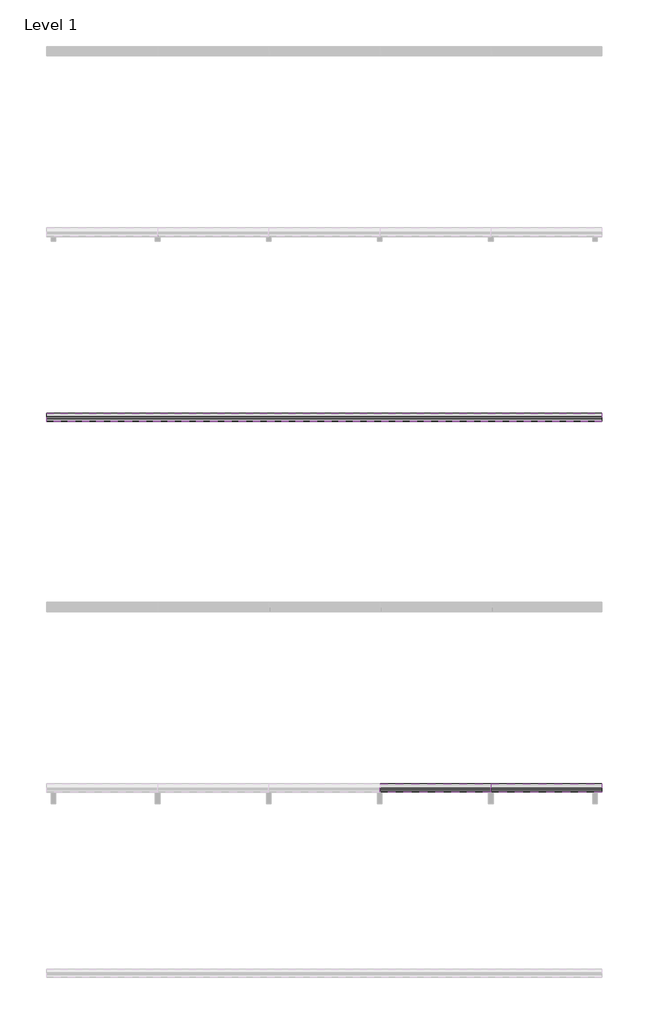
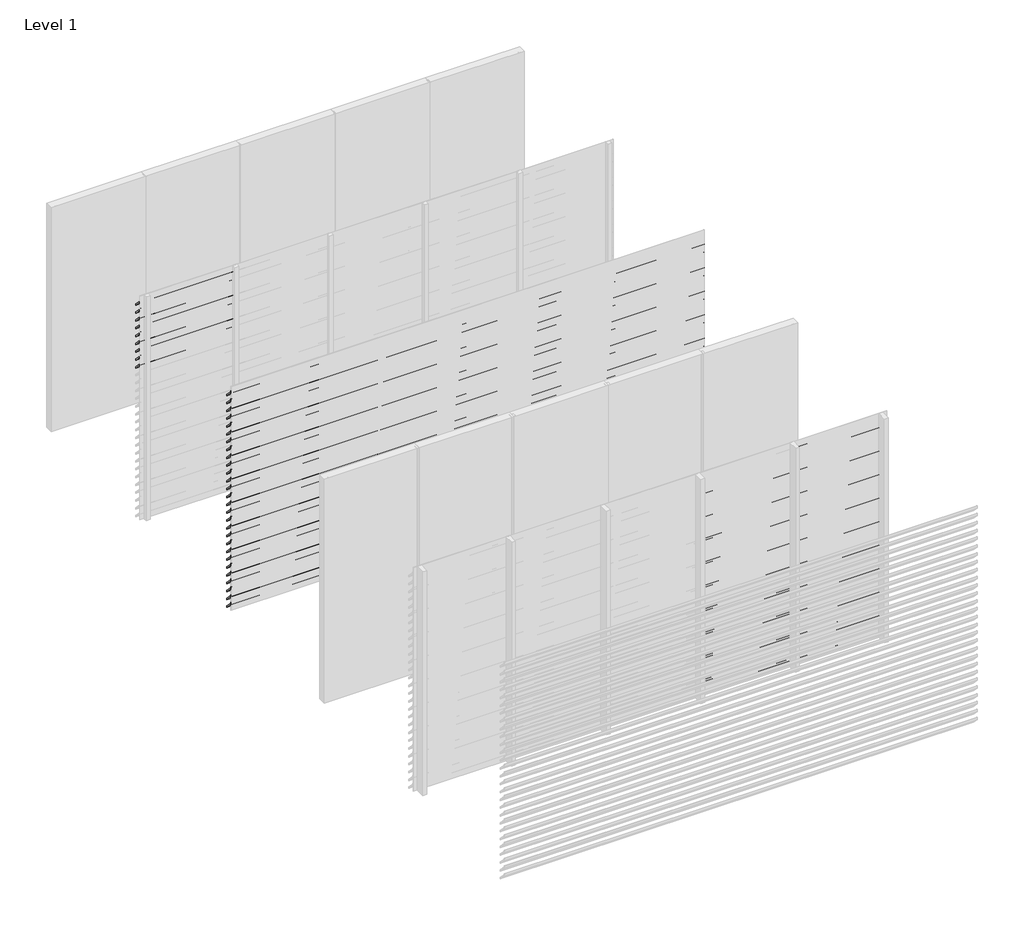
# One storey, part 3 of 8: 91 proxies.
"""IFC4 building model written with IfcOpenShell, lengths in millimetres."""

from ifc_helpers import new_model, si_unit, frame, origin, place, context, project, spatial, polyline, outline, extrude, element, save

model = new_model("IFC4")

# Units and contexts
model_context = context("Model", 3, world=origin())
ifc_project = project(units=[si_unit("LENGTHUNIT", "METRE", prefix="MILLI")], contexts=[model_context])

# Site, building, storey
site = spatial("IfcSite", under=ifc_project)
building = spatial("IfcBuilding", under=site)
storey = spatial("IfcBuildingStorey", under=building, Name="Level 1", Elevation=0.0)

# Proxies
placement = place(None, origin())
element("IfcBuildingElementProxy", 1, Name="Wall Sweeps", at=placement, inside=storey, context=model_context, shape_type="SweptSolid", body=[
    extrude(outline(polyline([(-11995.0, 2940.0), (-11995.0, 2927.0), (-11907.0, 2839.0), (-11907.0, 2818.0), (-11997.0, 2908.0), (-11997.0, 2940.0), (-11995.0, 2940.0)])), frame((0.0, 0.0, 0.0), z_axis=(1.0, 0.0, 0.0), x_axis=(0.0, 1.0, 0.0)), (0.0, 0.0, 1.0), 1200.0),
])
element("IfcBuildingElementProxy", 2, Name="Wall Sweeps", at=placement, inside=storey, context=model_context, shape_type="SweptSolid", body=[
    extrude(outline(polyline([(-11995.0, 2835.0), (-11995.0, 2822.0), (-11907.0, 2734.0), (-11907.0, 2713.0), (-11997.0, 2803.0), (-11997.0, 2835.0), (-11995.0, 2835.0)])), frame((0.0, 0.0, 0.0), z_axis=(1.0, 0.0, 0.0), x_axis=(0.0, 1.0, 0.0)), (0.0, 0.0, 1.0), 1200.0),
])
element("IfcBuildingElementProxy", 3, Name="Wall Sweeps", at=placement, inside=storey, context=model_context, shape_type="SweptSolid", body=[
    extrude(outline(polyline([(-11995.0, 2730.0), (-11995.0, 2717.0), (-11907.0, 2629.0), (-11907.0, 2608.0), (-11997.0, 2698.0), (-11997.0, 2730.0), (-11995.0, 2730.0)])), frame((0.0, 0.0, 0.0), z_axis=(1.0, 0.0, 0.0), x_axis=(0.0, 1.0, 0.0)), (0.0, 0.0, 1.0), 1200.0),
])
element("IfcBuildingElementProxy", 4, Name="Wall Sweeps", at=placement, inside=storey, context=model_context, shape_type="SweptSolid", body=[
    extrude(outline(polyline([(-11995.0, 2625.0), (-11995.0, 2612.0), (-11907.0, 2524.0), (-11907.0, 2503.0), (-11997.0, 2593.0), (-11997.0, 2625.0), (-11995.0, 2625.0)])), frame((0.0, 0.0, 0.0), z_axis=(1.0, 0.0, 0.0), x_axis=(0.0, 1.0, 0.0)), (0.0, 0.0, 1.0), 1200.0),
])
element("IfcBuildingElementProxy", 5, Name="Wall Sweeps", at=placement, inside=storey, context=model_context, shape_type="SweptSolid", body=[
    extrude(outline(polyline([(-11995.0, 2520.0), (-11995.0, 2507.0), (-11907.0, 2419.0), (-11907.0, 2398.0), (-11997.0, 2488.0), (-11997.0, 2520.0), (-11995.0, 2520.0)])), frame((0.0, 0.0, 0.0), z_axis=(1.0, 0.0, 0.0), x_axis=(0.0, 1.0, 0.0)), (0.0, 0.0, 1.0), 1200.0),
])
element("IfcBuildingElementProxy", 6, Name="Wall Sweeps", at=placement, inside=storey, context=model_context, shape_type="SweptSolid", body=[
    extrude(outline(polyline([(-11995.0, 2415.0), (-11995.0, 2402.0), (-11907.0, 2314.0), (-11907.0, 2293.0), (-11997.0, 2383.0), (-11997.0, 2415.0), (-11995.0, 2415.0)])), frame((0.0, 0.0, 0.0), z_axis=(1.0, 0.0, 0.0), x_axis=(0.0, 1.0, 0.0)), (0.0, 0.0, 1.0), 1200.0),
])
element("IfcBuildingElementProxy", 7, Name="Wall Sweeps", at=placement, inside=storey, context=model_context, shape_type="SweptSolid", body=[
    extrude(outline(polyline([(-11995.0, 2310.0), (-11995.0, 2297.0), (-11907.0, 2209.0), (-11907.0, 2188.0), (-11997.0, 2278.0), (-11997.0, 2310.0), (-11995.0, 2310.0)])), frame((0.0, 0.0, 0.0), z_axis=(1.0, 0.0, 0.0), x_axis=(0.0, 1.0, 0.0)), (0.0, 0.0, 1.0), 1200.0),
])
element("IfcBuildingElementProxy", 8, Name="Wall Sweeps", at=placement, inside=storey, context=model_context, shape_type="SweptSolid", body=[
    extrude(outline(polyline([(-11995.0, 2205.0), (-11995.0, 2192.0), (-11907.0, 2104.0), (-11907.0, 2083.0), (-11997.0, 2173.0), (-11997.0, 2205.0), (-11995.0, 2205.0)])), frame((0.0, 0.0, 0.0), z_axis=(1.0, 0.0, 0.0), x_axis=(0.0, 1.0, 0.0)), (0.0, 0.0, 1.0), 1200.0),
])
element("IfcBuildingElementProxy", 9, Name="Wall Sweeps", at=placement, inside=storey, context=model_context, shape_type="SweptSolid", body=[
    extrude(outline(polyline([(-11995.0, 2100.0), (-11995.0, 2087.0), (-11907.0, 1999.0), (-11907.0, 1978.0), (-11997.0, 2068.0), (-11997.0, 2100.0), (-11995.0, 2100.0)])), frame((0.0, 0.0, 0.0), z_axis=(1.0, 0.0, 0.0), x_axis=(0.0, 1.0, 0.0)), (0.0, 0.0, 1.0), 1200.0),
])
element("IfcBuildingElementProxy", 10, Name="Wall Sweeps", at=placement, inside=storey, context=model_context, shape_type="SweptSolid", body=[
    extrude(outline(polyline([(-13995.0, 2940.0), (-13995.0, 2927.0), (-13907.0, 2839.0), (-13907.0, 2818.0), (-13997.0, 2908.0), (-13997.0, 2940.0), (-13995.0, 2940.0)])), frame((0.0, 0.0, 0.0), z_axis=(1.0, 0.0, 0.0), x_axis=(0.0, 1.0, 0.0)), (0.0, 0.0, 1.0), 6000.0),
])
element("IfcBuildingElementProxy", 11, Name="Wall Sweeps", at=placement, inside=storey, context=model_context, shape_type="SweptSolid", body=[
    extrude(outline(polyline([(-13995.0, 2835.0), (-13995.0, 2822.0), (-13907.0, 2734.0), (-13907.0, 2713.0), (-13997.0, 2803.0), (-13997.0, 2835.0), (-13995.0, 2835.0)])), frame((0.0, 0.0, 0.0), z_axis=(1.0, 0.0, 0.0), x_axis=(0.0, 1.0, 0.0)), (0.0, 0.0, 1.0), 6000.0),
])
element("IfcBuildingElementProxy", 12, Name="Wall Sweeps", at=placement, inside=storey, context=model_context, shape_type="SweptSolid", body=[
    extrude(outline(polyline([(-13995.0, 2730.0), (-13995.0, 2717.0), (-13907.0, 2629.0), (-13907.0, 2608.0), (-13997.0, 2698.0), (-13997.0, 2730.0), (-13995.0, 2730.0)])), frame((0.0, 0.0, 0.0), z_axis=(1.0, 0.0, 0.0), x_axis=(0.0, 1.0, 0.0)), (0.0, 0.0, 1.0), 6000.0),
])
element("IfcBuildingElementProxy", 13, Name="Wall Sweeps", at=placement, inside=storey, context=model_context, shape_type="SweptSolid", body=[
    extrude(outline(polyline([(-13995.0, 2625.0), (-13995.0, 2612.0), (-13907.0, 2524.0), (-13907.0, 2503.0), (-13997.0, 2593.0), (-13997.0, 2625.0), (-13995.0, 2625.0)])), frame((0.0, 0.0, 0.0), z_axis=(1.0, 0.0, 0.0), x_axis=(0.0, 1.0, 0.0)), (0.0, 0.0, 1.0), 6000.0),
])
element("IfcBuildingElementProxy", 14, Name="Wall Sweeps", at=placement, inside=storey, context=model_context, shape_type="SweptSolid", body=[
    extrude(outline(polyline([(-13995.0, 2520.0), (-13995.0, 2507.0), (-13907.0, 2419.0), (-13907.0, 2398.0), (-13997.0, 2488.0), (-13997.0, 2520.0), (-13995.0, 2520.0)])), frame((0.0, 0.0, 0.0), z_axis=(1.0, 0.0, 0.0), x_axis=(0.0, 1.0, 0.0)), (0.0, 0.0, 1.0), 6000.0),
])
element("IfcBuildingElementProxy", 15, Name="Wall Sweeps", at=placement, inside=storey, context=model_context, shape_type="SweptSolid", body=[
    extrude(outline(polyline([(-13995.0, 2415.0), (-13995.0, 2402.0), (-13907.0, 2314.0), (-13907.0, 2293.0), (-13997.0, 2383.0), (-13997.0, 2415.0), (-13995.0, 2415.0)])), frame((0.0, 0.0, 0.0), z_axis=(1.0, 0.0, 0.0), x_axis=(0.0, 1.0, 0.0)), (0.0, 0.0, 1.0), 6000.0),
])
element("IfcBuildingElementProxy", 16, Name="Wall Sweeps", at=placement, inside=storey, context=model_context, shape_type="SweptSolid", body=[
    extrude(outline(polyline([(-13995.0, 2310.0), (-13995.0, 2297.0), (-13907.0, 2209.0), (-13907.0, 2188.0), (-13997.0, 2278.0), (-13997.0, 2310.0), (-13995.0, 2310.0)])), frame((0.0, 0.0, 0.0), z_axis=(1.0, 0.0, 0.0), x_axis=(0.0, 1.0, 0.0)), (0.0, 0.0, 1.0), 6000.0),
])
element("IfcBuildingElementProxy", 17, Name="Wall Sweeps", at=placement, inside=storey, context=model_context, shape_type="SweptSolid", body=[
    extrude(outline(polyline([(-13995.0, 2205.0), (-13995.0, 2192.0), (-13907.0, 2104.0), (-13907.0, 2083.0), (-13997.0, 2173.0), (-13997.0, 2205.0), (-13995.0, 2205.0)])), frame((0.0, 0.0, 0.0), z_axis=(1.0, 0.0, 0.0), x_axis=(0.0, 1.0, 0.0)), (0.0, 0.0, 1.0), 6000.0),
])
element("IfcBuildingElementProxy", 18, Name="Wall Sweeps", at=placement, inside=storey, context=model_context, shape_type="SweptSolid", body=[
    extrude(outline(polyline([(-13995.0, 2100.0), (-13995.0, 2087.0), (-13907.0, 1999.0), (-13907.0, 1978.0), (-13997.0, 2068.0), (-13997.0, 2100.0), (-13995.0, 2100.0)])), frame((0.0, 0.0, 0.0), z_axis=(1.0, 0.0, 0.0), x_axis=(0.0, 1.0, 0.0)), (0.0, 0.0, 1.0), 6000.0),
])
element("IfcBuildingElementProxy", 19, Name="Wall Sweeps", at=placement, inside=storey, context=model_context, shape_type="SweptSolid", body=[
    extrude(outline(polyline([(-13995.0, 1995.0), (-13995.0, 1982.0), (-13907.0, 1894.0), (-13907.0, 1873.0), (-13997.0, 1963.0), (-13997.0, 1995.0), (-13995.0, 1995.0)])), frame((0.0, 0.0, 0.0), z_axis=(1.0, 0.0, 0.0), x_axis=(0.0, 1.0, 0.0)), (0.0, 0.0, 1.0), 6000.0),
])
element("IfcBuildingElementProxy", 20, Name="Wall Sweeps", at=placement, inside=storey, context=model_context, shape_type="SweptSolid", body=[
    extrude(outline(polyline([(-13995.0, 1890.0), (-13995.0, 1877.0), (-13907.0, 1789.0), (-13907.0, 1768.0), (-13997.0, 1858.0), (-13997.0, 1890.0), (-13995.0, 1890.0)])), frame((0.0, 0.0, 0.0), z_axis=(1.0, 0.0, 0.0), x_axis=(0.0, 1.0, 0.0)), (0.0, 0.0, 1.0), 6000.0),
])
element("IfcBuildingElementProxy", 21, Name="Wall Sweeps", at=placement, inside=storey, context=model_context, shape_type="SweptSolid", body=[
    extrude(outline(polyline([(-13995.0, 1785.0), (-13995.0, 1772.0), (-13907.0, 1684.0), (-13907.0, 1663.0), (-13997.0, 1753.0), (-13997.0, 1785.0), (-13995.0, 1785.0)])), frame((0.0, 0.0, 0.0), z_axis=(1.0, 0.0, 0.0), x_axis=(0.0, 1.0, 0.0)), (0.0, 0.0, 1.0), 6000.0),
])
element("IfcBuildingElementProxy", 22, Name="Wall Sweeps", at=placement, inside=storey, context=model_context, shape_type="SweptSolid", body=[
    extrude(outline(polyline([(-13995.0, 1680.0), (-13995.0, 1667.0), (-13907.0, 1579.0), (-13907.0, 1558.0), (-13997.0, 1648.0), (-13997.0, 1680.0), (-13995.0, 1680.0)])), frame((0.0, 0.0, 0.0), z_axis=(1.0, 0.0, 0.0), x_axis=(0.0, 1.0, 0.0)), (0.0, 0.0, 1.0), 6000.0),
])
element("IfcBuildingElementProxy", 23, Name="Wall Sweeps", at=placement, inside=storey, context=model_context, shape_type="SweptSolid", body=[
    extrude(outline(polyline([(-13995.0, 1575.0), (-13995.0, 1562.0), (-13907.0, 1474.0), (-13907.0, 1453.0), (-13997.0, 1543.0), (-13997.0, 1575.0), (-13995.0, 1575.0)])), frame((0.0, 0.0, 0.0), z_axis=(1.0, 0.0, 0.0), x_axis=(0.0, 1.0, 0.0)), (0.0, 0.0, 1.0), 6000.0),
])
element("IfcBuildingElementProxy", 24, Name="Wall Sweeps", at=placement, inside=storey, context=model_context, shape_type="SweptSolid", body=[
    extrude(outline(polyline([(-13995.0, 1470.0), (-13995.0, 1457.0), (-13907.0, 1369.0), (-13907.0, 1348.0), (-13997.0, 1438.0), (-13997.0, 1470.0), (-13995.0, 1470.0)])), frame((0.0, 0.0, 0.0), z_axis=(1.0, 0.0, 0.0), x_axis=(0.0, 1.0, 0.0)), (0.0, 0.0, 1.0), 6000.0),
])
element("IfcBuildingElementProxy", 25, Name="Wall Sweeps", at=placement, inside=storey, context=model_context, shape_type="SweptSolid", body=[
    extrude(outline(polyline([(-13995.0, 1365.0), (-13995.0, 1352.0), (-13907.0, 1264.0), (-13907.0, 1243.0), (-13997.0, 1333.0), (-13997.0, 1365.0), (-13995.0, 1365.0)])), frame((0.0, 0.0, 0.0), z_axis=(1.0, 0.0, 0.0), x_axis=(0.0, 1.0, 0.0)), (0.0, 0.0, 1.0), 6000.0),
])
element("IfcBuildingElementProxy", 26, Name="Wall Sweeps", at=placement, inside=storey, context=model_context, shape_type="SweptSolid", body=[
    extrude(outline(polyline([(-13995.0, 1260.0), (-13995.0, 1247.0), (-13907.0, 1159.0), (-13907.0, 1138.0), (-13997.0, 1228.0), (-13997.0, 1260.0), (-13995.0, 1260.0)])), frame((0.0, 0.0, 0.0), z_axis=(1.0, 0.0, 0.0), x_axis=(0.0, 1.0, 0.0)), (0.0, 0.0, 1.0), 6000.0),
])
element("IfcBuildingElementProxy", 27, Name="Wall Sweeps", at=placement, inside=storey, context=model_context, shape_type="SweptSolid", body=[
    extrude(outline(polyline([(-13995.0, 1155.0), (-13995.0, 1142.0), (-13907.0, 1054.0), (-13907.0, 1033.0), (-13997.0, 1123.0), (-13997.0, 1155.0), (-13995.0, 1155.0)])), frame((0.0, 0.0, 0.0), z_axis=(1.0, 0.0, 0.0), x_axis=(0.0, 1.0, 0.0)), (0.0, 0.0, 1.0), 6000.0),
])
element("IfcBuildingElementProxy", 28, Name="Wall Sweeps", at=placement, inside=storey, context=model_context, shape_type="SweptSolid", body=[
    extrude(outline(polyline([(-13995.0, 1050.0), (-13995.0, 1037.0), (-13907.0, 949.0), (-13907.0, 928.0), (-13997.0, 1018.0), (-13997.0, 1050.0), (-13995.0, 1050.0)])), frame((0.0, 0.0, 0.0), z_axis=(1.0, 0.0, 0.0), x_axis=(0.0, 1.0, 0.0)), (0.0, 0.0, 1.0), 6000.0),
])
element("IfcBuildingElementProxy", 29, Name="Wall Sweeps", at=placement, inside=storey, context=model_context, shape_type="SweptSolid", body=[
    extrude(outline(polyline([(-13995.0, 945.0), (-13995.0, 932.0), (-13907.0, 844.0), (-13907.0, 823.0), (-13997.0, 913.0), (-13997.0, 945.0), (-13995.0, 945.0)])), frame((0.0, 0.0, 0.0), z_axis=(1.0, 0.0, 0.0), x_axis=(0.0, 1.0, 0.0)), (0.0, 0.0, 1.0), 6000.0),
])
element("IfcBuildingElementProxy", 30, Name="Wall Sweeps", at=placement, inside=storey, context=model_context, shape_type="SweptSolid", body=[
    extrude(outline(polyline([(-13995.0, 840.0), (-13995.0, 827.0), (-13907.0, 739.0), (-13907.0, 718.0), (-13997.0, 808.0), (-13997.0, 840.0), (-13995.0, 840.0)])), frame((0.0, 0.0, 0.0), z_axis=(1.0, 0.0, 0.0), x_axis=(0.0, 1.0, 0.0)), (0.0, 0.0, 1.0), 6000.0),
])
element("IfcBuildingElementProxy", 31, Name="Wall Sweeps", at=placement, inside=storey, context=model_context, shape_type="SweptSolid", body=[
    extrude(outline(polyline([(-13995.0, 735.0), (-13995.0, 722.0), (-13907.0, 634.0), (-13907.0, 613.0), (-13997.0, 703.0), (-13997.0, 735.0), (-13995.0, 735.0)])), frame((0.0, 0.0, 0.0), z_axis=(1.0, 0.0, 0.0), x_axis=(0.0, 1.0, 0.0)), (0.0, 0.0, 1.0), 6000.0),
])
element("IfcBuildingElementProxy", 32, Name="Wall Sweeps", at=placement, inside=storey, context=model_context, shape_type="SweptSolid", body=[
    extrude(outline(polyline([(-13995.0, 630.0), (-13995.0, 617.0), (-13907.0, 529.0), (-13907.0, 508.0), (-13997.0, 598.0), (-13997.0, 630.0), (-13995.0, 630.0)])), frame((0.0, 0.0, 0.0), z_axis=(1.0, 0.0, 0.0), x_axis=(0.0, 1.0, 0.0)), (0.0, 0.0, 1.0), 6000.0),
])
element("IfcBuildingElementProxy", 33, Name="Wall Sweeps", at=placement, inside=storey, context=model_context, shape_type="SweptSolid", body=[
    extrude(outline(polyline([(-13995.0, 525.0), (-13995.0, 512.0), (-13907.0, 424.0), (-13907.0, 403.0), (-13997.0, 493.0), (-13997.0, 525.0), (-13995.0, 525.0)])), frame((0.0, 0.0, 0.0), z_axis=(1.0, 0.0, 0.0), x_axis=(0.0, 1.0, 0.0)), (0.0, 0.0, 1.0), 6000.0),
])
element("IfcBuildingElementProxy", 34, Name="Wall Sweeps", at=placement, inside=storey, context=model_context, shape_type="SweptSolid", body=[
    extrude(outline(polyline([(-13995.0, 420.0), (-13995.0, 407.0), (-13907.0, 319.0), (-13907.0, 298.0), (-13997.0, 388.0), (-13997.0, 420.0), (-13995.0, 420.0)])), frame((0.0, 0.0, 0.0), z_axis=(1.0, 0.0, 0.0), x_axis=(0.0, 1.0, 0.0)), (0.0, 0.0, 1.0), 6000.0),
])
element("IfcBuildingElementProxy", 35, Name="Wall Sweeps", at=placement, inside=storey, context=model_context, shape_type="SweptSolid", body=[
    extrude(outline(polyline([(-13995.0, 315.0), (-13995.0, 302.0), (-13907.0, 214.0), (-13907.0, 193.0), (-13997.0, 283.0), (-13997.0, 315.0), (-13995.0, 315.0)])), frame((0.0, 0.0, 0.0), z_axis=(1.0, 0.0, 0.0), x_axis=(0.0, 1.0, 0.0)), (0.0, 0.0, 1.0), 6000.0),
])
element("IfcBuildingElementProxy", 36, Name="Wall Sweeps", at=placement, inside=storey, context=model_context, shape_type="SweptSolid", body=[
    extrude(outline(polyline([(-13995.0, 210.0), (-13995.0, 197.0), (-13907.0, 109.0), (-13907.0, 88.0), (-13997.0, 178.0), (-13997.0, 210.0), (-13995.0, 210.0)])), frame((0.0, 0.0, 0.0), z_axis=(1.0, 0.0, 0.0), x_axis=(0.0, 1.0, 0.0)), (0.0, 0.0, 1.0), 6000.0),
])
element("IfcBuildingElementProxy", 37, Name="Wall Sweeps", at=placement, inside=storey, context=model_context, shape_type="SweptSolid", body=[
    extrude(outline(polyline([(-13995.0, 105.0), (-13995.0, 92.0), (-13907.0, 4.0), (-13907.0, -17.0), (-13997.0, 73.0), (-13997.0, 105.0), (-13995.0, 105.0)])), frame((0.0, 0.0, 0.0), z_axis=(1.0, 0.0, 0.0), x_axis=(0.0, 1.0, 0.0)), (0.0, 0.0, 1.0), 6000.0),
])
element("IfcBuildingElementProxy", 38, Name="Wall Sweeps", at=placement, inside=storey, context=model_context, shape_type="SweptSolid", body=[
    extrude(outline(polyline([(-17995.0, 2940.0), (-17995.0, 2927.0), (-17907.0, 2839.0), (-17907.0, 2818.0), (-17997.0, 2908.0), (-17997.0, 2940.0), (-17995.0, 2940.0)])), frame((4799.9999998, 0.0, 0.0), z_axis=(1.0, 0.0, 0.0), x_axis=(0.0, 1.0, 0.0)), (0.0, 0.0, 1.0), 1200.0000002),
])
element("IfcBuildingElementProxy", 39, Name="Wall Sweeps", at=placement, inside=storey, context=model_context, shape_type="SweptSolid", body=[
    extrude(outline(polyline([(-17995.0, 2835.0), (-17995.0, 2822.0), (-17907.0, 2734.0), (-17907.0, 2713.0), (-17997.0, 2803.0), (-17997.0, 2835.0), (-17995.0, 2835.0)])), frame((4799.9999998, 0.0, 0.0), z_axis=(1.0, 0.0, 0.0), x_axis=(0.0, 1.0, 0.0)), (0.0, 0.0, 1.0), 1200.0000002),
])
element("IfcBuildingElementProxy", 40, Name="Wall Sweeps", at=placement, inside=storey, context=model_context, shape_type="SweptSolid", body=[
    extrude(outline(polyline([(-17995.0, 2730.0), (-17995.0, 2717.0), (-17907.0, 2629.0), (-17907.0, 2608.0), (-17997.0, 2698.0), (-17997.0, 2730.0), (-17995.0, 2730.0)])), frame((4799.9999998, 0.0, 0.0), z_axis=(1.0, 0.0, 0.0), x_axis=(0.0, 1.0, 0.0)), (0.0, 0.0, 1.0), 1200.0000002),
])
element("IfcBuildingElementProxy", 41, Name="Wall Sweeps", at=placement, inside=storey, context=model_context, shape_type="SweptSolid", body=[
    extrude(outline(polyline([(-17995.0, 2625.0), (-17995.0, 2612.0), (-17907.0, 2524.0), (-17907.0, 2503.0), (-17997.0, 2593.0), (-17997.0, 2625.0), (-17995.0, 2625.0)])), frame((4799.9999998, 0.0, 0.0), z_axis=(1.0, 0.0, 0.0), x_axis=(0.0, 1.0, 0.0)), (0.0, 0.0, 1.0), 1200.0000002),
])
element("IfcBuildingElementProxy", 42, Name="Wall Sweeps", at=placement, inside=storey, context=model_context, shape_type="SweptSolid", body=[
    extrude(outline(polyline([(-17995.0, 2520.0), (-17995.0, 2507.0), (-17907.0, 2419.0), (-17907.0, 2398.0), (-17997.0, 2488.0), (-17997.0, 2520.0), (-17995.0, 2520.0)])), frame((4799.9999998, 0.0, 0.0), z_axis=(1.0, 0.0, 0.0), x_axis=(0.0, 1.0, 0.0)), (0.0, 0.0, 1.0), 1200.0000002),
])
element("IfcBuildingElementProxy", 43, Name="Wall Sweeps", at=placement, inside=storey, context=model_context, shape_type="SweptSolid", body=[
    extrude(outline(polyline([(-17995.0, 2415.0), (-17995.0, 2402.0), (-17907.0, 2314.0), (-17907.0, 2293.0), (-17997.0, 2383.0), (-17997.0, 2415.0), (-17995.0, 2415.0)])), frame((4799.9999998, 0.0, 0.0), z_axis=(1.0, 0.0, 0.0), x_axis=(0.0, 1.0, 0.0)), (0.0, 0.0, 1.0), 1200.0000002),
])
element("IfcBuildingElementProxy", 44, Name="Wall Sweeps", at=placement, inside=storey, context=model_context, shape_type="SweptSolid", body=[
    extrude(outline(polyline([(-17995.0, 2310.0), (-17995.0, 2297.0), (-17907.0, 2209.0), (-17907.0, 2188.0), (-17997.0, 2278.0), (-17997.0, 2310.0), (-17995.0, 2310.0)])), frame((4799.9999998, 0.0, 0.0), z_axis=(1.0, 0.0, 0.0), x_axis=(0.0, 1.0, 0.0)), (0.0, 0.0, 1.0), 1200.0000002),
])
element("IfcBuildingElementProxy", 45, Name="Wall Sweeps", at=placement, inside=storey, context=model_context, shape_type="SweptSolid", body=[
    extrude(outline(polyline([(-17995.0, 2205.0), (-17995.0, 2192.0), (-17907.0, 2104.0), (-17907.0, 2083.0), (-17997.0, 2173.0), (-17997.0, 2205.0), (-17995.0, 2205.0)])), frame((4799.9999998, 0.0, 0.0), z_axis=(1.0, 0.0, 0.0), x_axis=(0.0, 1.0, 0.0)), (0.0, 0.0, 1.0), 1200.0000002),
])
element("IfcBuildingElementProxy", 46, Name="Wall Sweeps", at=placement, inside=storey, context=model_context, shape_type="SweptSolid", body=[
    extrude(outline(polyline([(-17995.0, 2100.0), (-17995.0, 2087.0), (-17907.0, 1999.0), (-17907.0, 1978.0), (-17997.0, 2068.0), (-17997.0, 2100.0), (-17995.0, 2100.0)])), frame((4799.9999998, 0.0, 0.0), z_axis=(1.0, 0.0, 0.0), x_axis=(0.0, 1.0, 0.0)), (0.0, 0.0, 1.0), 1200.0000002),
])
element("IfcBuildingElementProxy", 47, Name="Wall Sweeps", at=placement, inside=storey, context=model_context, shape_type="SweptSolid", body=[
    extrude(outline(polyline([(-17995.0, 1995.0), (-17995.0, 1982.0), (-17907.0, 1894.0), (-17907.0, 1873.0), (-17997.0, 1963.0), (-17997.0, 1995.0), (-17995.0, 1995.0)])), frame((4799.9999998, 0.0, 0.0), z_axis=(1.0, 0.0, 0.0), x_axis=(0.0, 1.0, 0.0)), (0.0, 0.0, 1.0), 1200.0000002),
])
element("IfcBuildingElementProxy", 48, Name="Wall Sweeps", at=placement, inside=storey, context=model_context, shape_type="SweptSolid", body=[
    extrude(outline(polyline([(-17995.0, 1890.0), (-17995.0, 1877.0), (-17907.0, 1789.0), (-17907.0, 1768.0), (-17997.0, 1858.0), (-17997.0, 1890.0), (-17995.0, 1890.0)])), frame((4799.9999998, 0.0, 0.0), z_axis=(1.0, 0.0, 0.0), x_axis=(0.0, 1.0, 0.0)), (0.0, 0.0, 1.0), 1200.0000002),
])
element("IfcBuildingElementProxy", 49, Name="Wall Sweeps", at=placement, inside=storey, context=model_context, shape_type="SweptSolid", body=[
    extrude(outline(polyline([(-17995.0, 1785.0), (-17995.0, 1772.0), (-17907.0, 1684.0), (-17907.0, 1663.0), (-17997.0, 1753.0), (-17997.0, 1785.0), (-17995.0, 1785.0)])), frame((4799.9999998, 0.0, 0.0), z_axis=(1.0, 0.0, 0.0), x_axis=(0.0, 1.0, 0.0)), (0.0, 0.0, 1.0), 1200.0000002),
])
element("IfcBuildingElementProxy", 50, Name="Wall Sweeps", at=placement, inside=storey, context=model_context, shape_type="SweptSolid", body=[
    extrude(outline(polyline([(-17995.0, 1680.0), (-17995.0, 1667.0), (-17907.0, 1579.0), (-17907.0, 1558.0), (-17997.0, 1648.0), (-17997.0, 1680.0), (-17995.0, 1680.0)])), frame((4799.9999998, 0.0, 0.0), z_axis=(1.0, 0.0, 0.0), x_axis=(0.0, 1.0, 0.0)), (0.0, 0.0, 1.0), 1200.0000002),
])
element("IfcBuildingElementProxy", 51, Name="Wall Sweeps", at=placement, inside=storey, context=model_context, shape_type="SweptSolid", body=[
    extrude(outline(polyline([(-17995.0, 1575.0), (-17995.0, 1562.0), (-17907.0, 1474.0), (-17907.0, 1453.0), (-17997.0, 1543.0), (-17997.0, 1575.0), (-17995.0, 1575.0)])), frame((4799.9999998, 0.0, 0.0), z_axis=(1.0, 0.0, 0.0), x_axis=(0.0, 1.0, 0.0)), (0.0, 0.0, 1.0), 1200.0000002),
])
element("IfcBuildingElementProxy", 52, Name="Wall Sweeps", at=placement, inside=storey, context=model_context, shape_type="SweptSolid", body=[
    extrude(outline(polyline([(-17995.0, 1470.0), (-17995.0, 1457.0), (-17907.0, 1369.0), (-17907.0, 1348.0), (-17997.0, 1438.0), (-17997.0, 1470.0), (-17995.0, 1470.0)])), frame((4799.9999998, 0.0, 0.0), z_axis=(1.0, 0.0, 0.0), x_axis=(0.0, 1.0, 0.0)), (0.0, 0.0, 1.0), 1200.0000002),
])
element("IfcBuildingElementProxy", 53, Name="Wall Sweeps", at=placement, inside=storey, context=model_context, shape_type="SweptSolid", body=[
    extrude(outline(polyline([(-17995.0, 1365.0), (-17995.0, 1352.0), (-17907.0, 1264.0), (-17907.0, 1243.0), (-17997.0, 1333.0), (-17997.0, 1365.0), (-17995.0, 1365.0)])), frame((4799.9999998, 0.0, 0.0), z_axis=(1.0, 0.0, 0.0), x_axis=(0.0, 1.0, 0.0)), (0.0, 0.0, 1.0), 1200.0000002),
])
element("IfcBuildingElementProxy", 54, Name="Wall Sweeps", at=placement, inside=storey, context=model_context, shape_type="SweptSolid", body=[
    extrude(outline(polyline([(-17995.0, 1260.0), (-17995.0, 1247.0), (-17907.0, 1159.0), (-17907.0, 1138.0), (-17997.0, 1228.0), (-17997.0, 1260.0), (-17995.0, 1260.0)])), frame((4799.9999998, 0.0, 0.0), z_axis=(1.0, 0.0, 0.0), x_axis=(0.0, 1.0, 0.0)), (0.0, 0.0, 1.0), 1200.0000002),
])
element("IfcBuildingElementProxy", 55, Name="Wall Sweeps", at=placement, inside=storey, context=model_context, shape_type="SweptSolid", body=[
    extrude(outline(polyline([(-17995.0, 1155.0), (-17995.0, 1142.0), (-17907.0, 1054.0), (-17907.0, 1033.0), (-17997.0, 1123.0), (-17997.0, 1155.0), (-17995.0, 1155.0)])), frame((4799.9999998, 0.0, 0.0), z_axis=(1.0, 0.0, 0.0), x_axis=(0.0, 1.0, 0.0)), (0.0, 0.0, 1.0), 1200.0000002),
])
element("IfcBuildingElementProxy", 56, Name="Wall Sweeps", at=placement, inside=storey, context=model_context, shape_type="SweptSolid", body=[
    extrude(outline(polyline([(-17995.0, 1050.0), (-17995.0, 1037.0), (-17907.0, 949.0), (-17907.0, 928.0), (-17997.0, 1018.0), (-17997.0, 1050.0), (-17995.0, 1050.0)])), frame((4799.9999998, 0.0, 0.0), z_axis=(1.0, 0.0, 0.0), x_axis=(0.0, 1.0, 0.0)), (0.0, 0.0, 1.0), 1200.0000002),
])
element("IfcBuildingElementProxy", 57, Name="Wall Sweeps", at=placement, inside=storey, context=model_context, shape_type="SweptSolid", body=[
    extrude(outline(polyline([(-17995.0, 945.0), (-17995.0, 932.0), (-17907.0, 844.0), (-17907.0, 823.0), (-17997.0, 913.0), (-17997.0, 945.0), (-17995.0, 945.0)])), frame((4799.9999998, 0.0, 0.0), z_axis=(1.0, 0.0, 0.0), x_axis=(0.0, 1.0, 0.0)), (0.0, 0.0, 1.0), 1200.0000002),
])
element("IfcBuildingElementProxy", 58, Name="Wall Sweeps", at=placement, inside=storey, context=model_context, shape_type="SweptSolid", body=[
    extrude(outline(polyline([(-17995.0, 840.0), (-17995.0, 827.0), (-17907.0, 739.0), (-17907.0, 718.0), (-17997.0, 808.0), (-17997.0, 840.0), (-17995.0, 840.0)])), frame((4799.9999998, 0.0, 0.0), z_axis=(1.0, 0.0, 0.0), x_axis=(0.0, 1.0, 0.0)), (0.0, 0.0, 1.0), 1200.0000002),
])
element("IfcBuildingElementProxy", 59, Name="Wall Sweeps", at=placement, inside=storey, context=model_context, shape_type="SweptSolid", body=[
    extrude(outline(polyline([(-17995.0, 735.0), (-17995.0, 722.0), (-17907.0, 634.0), (-17907.0, 613.0), (-17997.0, 703.0), (-17997.0, 735.0), (-17995.0, 735.0)])), frame((4799.9999998, 0.0, 0.0), z_axis=(1.0, 0.0, 0.0), x_axis=(0.0, 1.0, 0.0)), (0.0, 0.0, 1.0), 1200.0000002),
])
element("IfcBuildingElementProxy", 60, Name="Wall Sweeps", at=placement, inside=storey, context=model_context, shape_type="SweptSolid", body=[
    extrude(outline(polyline([(-17995.0, 630.0), (-17995.0, 617.0), (-17907.0, 529.0), (-17907.0, 508.0), (-17997.0, 598.0), (-17997.0, 630.0), (-17995.0, 630.0)])), frame((4799.9999998, 0.0, 0.0), z_axis=(1.0, 0.0, 0.0), x_axis=(0.0, 1.0, 0.0)), (0.0, 0.0, 1.0), 1200.0000002),
])
element("IfcBuildingElementProxy", 61, Name="Wall Sweeps", at=placement, inside=storey, context=model_context, shape_type="SweptSolid", body=[
    extrude(outline(polyline([(-17995.0, 525.0), (-17995.0, 512.0), (-17907.0, 424.0), (-17907.0, 403.0), (-17997.0, 493.0), (-17997.0, 525.0), (-17995.0, 525.0)])), frame((4799.9999998, 0.0, 0.0), z_axis=(1.0, 0.0, 0.0), x_axis=(0.0, 1.0, 0.0)), (0.0, 0.0, 1.0), 1200.0000002),
])
element("IfcBuildingElementProxy", 62, Name="Wall Sweeps", at=placement, inside=storey, context=model_context, shape_type="SweptSolid", body=[
    extrude(outline(polyline([(-17995.0, 420.0), (-17995.0, 407.0), (-17907.0, 319.0), (-17907.0, 298.0), (-17997.0, 388.0), (-17997.0, 420.0), (-17995.0, 420.0)])), frame((4799.9999998, 0.0, 0.0), z_axis=(1.0, 0.0, 0.0), x_axis=(0.0, 1.0, 0.0)), (0.0, 0.0, 1.0), 1200.0000002),
])
element("IfcBuildingElementProxy", 63, Name="Wall Sweeps", at=placement, inside=storey, context=model_context, shape_type="SweptSolid", body=[
    extrude(outline(polyline([(-17995.0, 315.0), (-17995.0, 302.0), (-17907.0, 214.0), (-17907.0, 193.0), (-17997.0, 283.0), (-17997.0, 315.0), (-17995.0, 315.0)])), frame((4799.9999998, 0.0, 0.0), z_axis=(1.0, 0.0, 0.0), x_axis=(0.0, 1.0, 0.0)), (0.0, 0.0, 1.0), 1200.0000002),
])
element("IfcBuildingElementProxy", 64, Name="Wall Sweeps", at=placement, inside=storey, context=model_context, shape_type="SweptSolid", body=[
    extrude(outline(polyline([(-17995.0, 210.0), (-17995.0, 197.0), (-17907.0, 109.0), (-17907.0, 88.0), (-17997.0, 178.0), (-17997.0, 210.0), (-17995.0, 210.0)])), frame((4799.9999998, 0.0, 0.0), z_axis=(1.0, 0.0, 0.0), x_axis=(0.0, 1.0, 0.0)), (0.0, 0.0, 1.0), 1200.0000002),
])
element("IfcBuildingElementProxy", 65, Name="Wall Sweeps", at=placement, inside=storey, context=model_context, shape_type="SweptSolid", body=[
    extrude(outline(polyline([(-17995.0, 105.0), (-17995.0, 92.0), (-17907.0, 4.0), (-17907.0, -17.0), (-17997.0, 73.0), (-17997.0, 105.0), (-17995.0, 105.0)])), frame((4799.9999998, 0.0, 0.0), z_axis=(1.0, 0.0, 0.0), x_axis=(0.0, 1.0, 0.0)), (0.0, 0.0, 1.0), 1200.0000002),
])
element("IfcBuildingElementProxy", 66, Name="Wall Sweeps", at=placement, inside=storey, context=model_context, shape_type="SweptSolid", body=[
    extrude(outline(polyline([(-17995.0, 2730.0), (-17995.0, 2717.0), (-17907.0, 2629.0), (-17907.0, 2608.0), (-17997.0, 2698.0), (-17997.0, 2730.0), (-17995.0, 2730.0)])), frame((3599.9999999, 0.0, 0.0), z_axis=(1.0, 0.0, 0.0), x_axis=(0.0, 1.0, 0.0)), (0.0, 0.0, 1.0), 1199.9999999),
])
element("IfcBuildingElementProxy", 67, Name="Wall Sweeps", at=placement, inside=storey, context=model_context, shape_type="SweptSolid", body=[
    extrude(outline(polyline([(-17995.0, 2625.0), (-17995.0, 2612.0), (-17907.0, 2524.0), (-17907.0, 2503.0), (-17997.0, 2593.0), (-17997.0, 2625.0), (-17995.0, 2625.0)])), frame((3599.9999999, 0.0, 0.0), z_axis=(1.0, 0.0, 0.0), x_axis=(0.0, 1.0, 0.0)), (0.0, 0.0, 1.0), 1199.9999999),
])
element("IfcBuildingElementProxy", 68, Name="Wall Sweeps", at=placement, inside=storey, context=model_context, shape_type="SweptSolid", body=[
    extrude(outline(polyline([(-17995.0, 2520.0), (-17995.0, 2507.0), (-17907.0, 2419.0), (-17907.0, 2398.0), (-17997.0, 2488.0), (-17997.0, 2520.0), (-17995.0, 2520.0)])), frame((3599.9999999, 0.0, 0.0), z_axis=(1.0, 0.0, 0.0), x_axis=(0.0, 1.0, 0.0)), (0.0, 0.0, 1.0), 1199.9999999),
])
element("IfcBuildingElementProxy", 69, Name="Wall Sweeps", at=placement, inside=storey, context=model_context, shape_type="SweptSolid", body=[
    extrude(outline(polyline([(-17995.0, 2415.0), (-17995.0, 2402.0), (-17907.0, 2314.0), (-17907.0, 2293.0), (-17997.0, 2383.0), (-17997.0, 2415.0), (-17995.0, 2415.0)])), frame((3599.9999999, 0.0, 0.0), z_axis=(1.0, 0.0, 0.0), x_axis=(0.0, 1.0, 0.0)), (0.0, 0.0, 1.0), 1199.9999999),
])
element("IfcBuildingElementProxy", 70, Name="Wall Sweeps", at=placement, inside=storey, context=model_context, shape_type="SweptSolid", body=[
    extrude(outline(polyline([(-17995.0, 2310.0), (-17995.0, 2297.0), (-17907.0, 2209.0), (-17907.0, 2188.0), (-17997.0, 2278.0), (-17997.0, 2310.0), (-17995.0, 2310.0)])), frame((3599.9999999, 0.0, 0.0), z_axis=(1.0, 0.0, 0.0), x_axis=(0.0, 1.0, 0.0)), (0.0, 0.0, 1.0), 1199.9999999),
])
element("IfcBuildingElementProxy", 71, Name="Wall Sweeps", at=placement, inside=storey, context=model_context, shape_type="SweptSolid", body=[
    extrude(outline(polyline([(-17995.0, 2205.0), (-17995.0, 2192.0), (-17907.0, 2104.0), (-17907.0, 2083.0), (-17997.0, 2173.0), (-17997.0, 2205.0), (-17995.0, 2205.0)])), frame((3599.9999999, 0.0, 0.0), z_axis=(1.0, 0.0, 0.0), x_axis=(0.0, 1.0, 0.0)), (0.0, 0.0, 1.0), 1199.9999999),
])
element("IfcBuildingElementProxy", 72, Name="Wall Sweeps", at=placement, inside=storey, context=model_context, shape_type="SweptSolid", body=[
    extrude(outline(polyline([(-17995.0, 2100.0), (-17995.0, 2087.0), (-17907.0, 1999.0), (-17907.0, 1978.0), (-17997.0, 2068.0), (-17997.0, 2100.0), (-17995.0, 2100.0)])), frame((3599.9999999, 0.0, 0.0), z_axis=(1.0, 0.0, 0.0), x_axis=(0.0, 1.0, 0.0)), (0.0, 0.0, 1.0), 1199.9999999),
])
element("IfcBuildingElementProxy", 73, Name="Wall Sweeps", at=placement, inside=storey, context=model_context, shape_type="SweptSolid", body=[
    extrude(outline(polyline([(-17995.0, 1995.0), (-17995.0, 1982.0), (-17907.0, 1894.0), (-17907.0, 1873.0), (-17997.0, 1963.0), (-17997.0, 1995.0), (-17995.0, 1995.0)])), frame((3599.9999999, 0.0, 0.0), z_axis=(1.0, 0.0, 0.0), x_axis=(0.0, 1.0, 0.0)), (0.0, 0.0, 1.0), 1199.9999999),
])
element("IfcBuildingElementProxy", 74, Name="Wall Sweeps", at=placement, inside=storey, context=model_context, shape_type="SweptSolid", body=[
    extrude(outline(polyline([(-17995.0, 1890.0), (-17995.0, 1877.0), (-17907.0, 1789.0), (-17907.0, 1768.0), (-17997.0, 1858.0), (-17997.0, 1890.0), (-17995.0, 1890.0)])), frame((3599.9999999, 0.0, 0.0), z_axis=(1.0, 0.0, 0.0), x_axis=(0.0, 1.0, 0.0)), (0.0, 0.0, 1.0), 1199.9999999),
])
element("IfcBuildingElementProxy", 75, Name="Wall Sweeps", at=placement, inside=storey, context=model_context, shape_type="SweptSolid", body=[
    extrude(outline(polyline([(-17995.0, 1785.0), (-17995.0, 1772.0), (-17907.0, 1684.0), (-17907.0, 1663.0), (-17997.0, 1753.0), (-17997.0, 1785.0), (-17995.0, 1785.0)])), frame((3599.9999999, 0.0, 0.0), z_axis=(1.0, 0.0, 0.0), x_axis=(0.0, 1.0, 0.0)), (0.0, 0.0, 1.0), 1199.9999999),
])
element("IfcBuildingElementProxy", 76, Name="Wall Sweeps", at=placement, inside=storey, context=model_context, shape_type="SweptSolid", body=[
    extrude(outline(polyline([(-17995.0, 1680.0), (-17995.0, 1667.0), (-17907.0, 1579.0), (-17907.0, 1558.0), (-17997.0, 1648.0), (-17997.0, 1680.0), (-17995.0, 1680.0)])), frame((3599.9999999, 0.0, 0.0), z_axis=(1.0, 0.0, 0.0), x_axis=(0.0, 1.0, 0.0)), (0.0, 0.0, 1.0), 1199.9999999),
])
element("IfcBuildingElementProxy", 77, Name="Wall Sweeps", at=placement, inside=storey, context=model_context, shape_type="SweptSolid", body=[
    extrude(outline(polyline([(-17995.0, 1575.0), (-17995.0, 1562.0), (-17907.0, 1474.0), (-17907.0, 1453.0), (-17997.0, 1543.0), (-17997.0, 1575.0), (-17995.0, 1575.0)])), frame((3599.9999999, 0.0, 0.0), z_axis=(1.0, 0.0, 0.0), x_axis=(0.0, 1.0, 0.0)), (0.0, 0.0, 1.0), 1199.9999999),
])
element("IfcBuildingElementProxy", 78, Name="Wall Sweeps", at=placement, inside=storey, context=model_context, shape_type="SweptSolid", body=[
    extrude(outline(polyline([(-17995.0, 1470.0), (-17995.0, 1457.0), (-17907.0, 1369.0), (-17907.0, 1348.0), (-17997.0, 1438.0), (-17997.0, 1470.0), (-17995.0, 1470.0)])), frame((3599.9999999, 0.0, 0.0), z_axis=(1.0, 0.0, 0.0), x_axis=(0.0, 1.0, 0.0)), (0.0, 0.0, 1.0), 1199.9999999),
])
element("IfcBuildingElementProxy", 79, Name="Wall Sweeps", at=placement, inside=storey, context=model_context, shape_type="SweptSolid", body=[
    extrude(outline(polyline([(-17995.0, 1365.0), (-17995.0, 1352.0), (-17907.0, 1264.0), (-17907.0, 1243.0), (-17997.0, 1333.0), (-17997.0, 1365.0), (-17995.0, 1365.0)])), frame((3599.9999999, 0.0, 0.0), z_axis=(1.0, 0.0, 0.0), x_axis=(0.0, 1.0, 0.0)), (0.0, 0.0, 1.0), 1199.9999999),
])
element("IfcBuildingElementProxy", 80, Name="Wall Sweeps", at=placement, inside=storey, context=model_context, shape_type="SweptSolid", body=[
    extrude(outline(polyline([(-17995.0, 1260.0), (-17995.0, 1247.0), (-17907.0, 1159.0), (-17907.0, 1138.0), (-17997.0, 1228.0), (-17997.0, 1260.0), (-17995.0, 1260.0)])), frame((3599.9999999, 0.0, 0.0), z_axis=(1.0, 0.0, 0.0), x_axis=(0.0, 1.0, 0.0)), (0.0, 0.0, 1.0), 1199.9999999),
])
element("IfcBuildingElementProxy", 81, Name="Wall Sweeps", at=placement, inside=storey, context=model_context, shape_type="SweptSolid", body=[
    extrude(outline(polyline([(-17995.0, 1155.0), (-17995.0, 1142.0), (-17907.0, 1054.0), (-17907.0, 1033.0), (-17997.0, 1123.0), (-17997.0, 1155.0), (-17995.0, 1155.0)])), frame((3599.9999999, 0.0, 0.0), z_axis=(1.0, 0.0, 0.0), x_axis=(0.0, 1.0, 0.0)), (0.0, 0.0, 1.0), 1199.9999999),
])
element("IfcBuildingElementProxy", 82, Name="Wall Sweeps", at=placement, inside=storey, context=model_context, shape_type="SweptSolid", body=[
    extrude(outline(polyline([(-17995.0, 1050.0), (-17995.0, 1037.0), (-17907.0, 949.0), (-17907.0, 928.0), (-17997.0, 1018.0), (-17997.0, 1050.0), (-17995.0, 1050.0)])), frame((3599.9999999, 0.0, 0.0), z_axis=(1.0, 0.0, 0.0), x_axis=(0.0, 1.0, 0.0)), (0.0, 0.0, 1.0), 1199.9999999),
])
element("IfcBuildingElementProxy", 83, Name="Wall Sweeps", at=placement, inside=storey, context=model_context, shape_type="SweptSolid", body=[
    extrude(outline(polyline([(-17995.0, 945.0), (-17995.0, 932.0), (-17907.0, 844.0), (-17907.0, 823.0), (-17997.0, 913.0), (-17997.0, 945.0), (-17995.0, 945.0)])), frame((3599.9999999, 0.0, 0.0), z_axis=(1.0, 0.0, 0.0), x_axis=(0.0, 1.0, 0.0)), (0.0, 0.0, 1.0), 1199.9999999),
])
element("IfcBuildingElementProxy", 84, Name="Wall Sweeps", at=placement, inside=storey, context=model_context, shape_type="SweptSolid", body=[
    extrude(outline(polyline([(-17995.0, 840.0), (-17995.0, 827.0), (-17907.0, 739.0), (-17907.0, 718.0), (-17997.0, 808.0), (-17997.0, 840.0), (-17995.0, 840.0)])), frame((3599.9999999, 0.0, 0.0), z_axis=(1.0, 0.0, 0.0), x_axis=(0.0, 1.0, 0.0)), (0.0, 0.0, 1.0), 1199.9999999),
])
element("IfcBuildingElementProxy", 85, Name="Wall Sweeps", at=placement, inside=storey, context=model_context, shape_type="SweptSolid", body=[
    extrude(outline(polyline([(-17995.0, 735.0), (-17995.0, 722.0), (-17907.0, 634.0), (-17907.0, 613.0), (-17997.0, 703.0), (-17997.0, 735.0), (-17995.0, 735.0)])), frame((3599.9999999, 0.0, 0.0), z_axis=(1.0, 0.0, 0.0), x_axis=(0.0, 1.0, 0.0)), (0.0, 0.0, 1.0), 1199.9999999),
])
element("IfcBuildingElementProxy", 86, Name="Wall Sweeps", at=placement, inside=storey, context=model_context, shape_type="SweptSolid", body=[
    extrude(outline(polyline([(-17995.0, 630.0), (-17995.0, 617.0), (-17907.0, 529.0), (-17907.0, 508.0), (-17997.0, 598.0), (-17997.0, 630.0), (-17995.0, 630.0)])), frame((3599.9999999, 0.0, 0.0), z_axis=(1.0, 0.0, 0.0), x_axis=(0.0, 1.0, 0.0)), (0.0, 0.0, 1.0), 1199.9999999),
])
element("IfcBuildingElementProxy", 87, Name="Wall Sweeps", at=placement, inside=storey, context=model_context, shape_type="SweptSolid", body=[
    extrude(outline(polyline([(-17995.0, 525.0), (-17995.0, 512.0), (-17907.0, 424.0), (-17907.0, 403.0), (-17997.0, 493.0), (-17997.0, 525.0), (-17995.0, 525.0)])), frame((3599.9999999, 0.0, 0.0), z_axis=(1.0, 0.0, 0.0), x_axis=(0.0, 1.0, 0.0)), (0.0, 0.0, 1.0), 1199.9999999),
])
element("IfcBuildingElementProxy", 88, Name="Wall Sweeps", at=placement, inside=storey, context=model_context, shape_type="SweptSolid", body=[
    extrude(outline(polyline([(-17995.0, 420.0), (-17995.0, 407.0), (-17907.0, 319.0), (-17907.0, 298.0), (-17997.0, 388.0), (-17997.0, 420.0), (-17995.0, 420.0)])), frame((3599.9999999, 0.0, 0.0), z_axis=(1.0, 0.0, 0.0), x_axis=(0.0, 1.0, 0.0)), (0.0, 0.0, 1.0), 1199.9999999),
])
element("IfcBuildingElementProxy", 89, Name="Wall Sweeps", at=placement, inside=storey, context=model_context, shape_type="SweptSolid", body=[
    extrude(outline(polyline([(-17995.0, 315.0), (-17995.0, 302.0), (-17907.0, 214.0), (-17907.0, 193.0), (-17997.0, 283.0), (-17997.0, 315.0), (-17995.0, 315.0)])), frame((3599.9999999, 0.0, 0.0), z_axis=(1.0, 0.0, 0.0), x_axis=(0.0, 1.0, 0.0)), (0.0, 0.0, 1.0), 1199.9999999),
])
element("IfcBuildingElementProxy", 90, Name="Wall Sweeps", at=placement, inside=storey, context=model_context, shape_type="SweptSolid", body=[
    extrude(outline(polyline([(-17995.0, 210.0), (-17995.0, 197.0), (-17907.0, 109.0), (-17907.0, 88.0), (-17997.0, 178.0), (-17997.0, 210.0), (-17995.0, 210.0)])), frame((3599.9999999, 0.0, 0.0), z_axis=(1.0, 0.0, 0.0), x_axis=(0.0, 1.0, 0.0)), (0.0, 0.0, 1.0), 1199.9999999),
])
element("IfcBuildingElementProxy", 91, Name="Wall Sweeps", at=placement, inside=storey, context=model_context, shape_type="SweptSolid", body=[
    extrude(outline(polyline([(-17995.0, 105.0), (-17995.0, 92.0), (-17907.0, 4.0), (-17907.0, -17.0), (-17997.0, 73.0), (-17997.0, 105.0), (-17995.0, 105.0)])), frame((3599.9999999, 0.0, 0.0), z_axis=(1.0, 0.0, 0.0), x_axis=(0.0, 1.0, 0.0)), (0.0, 0.0, 1.0), 1199.9999999),
])

save(model, "model.ifc")
